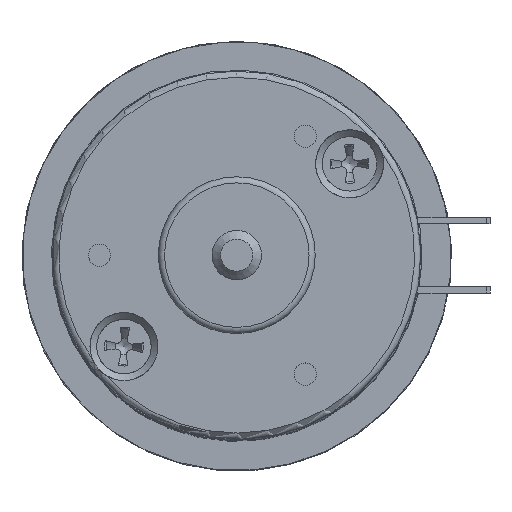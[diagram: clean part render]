
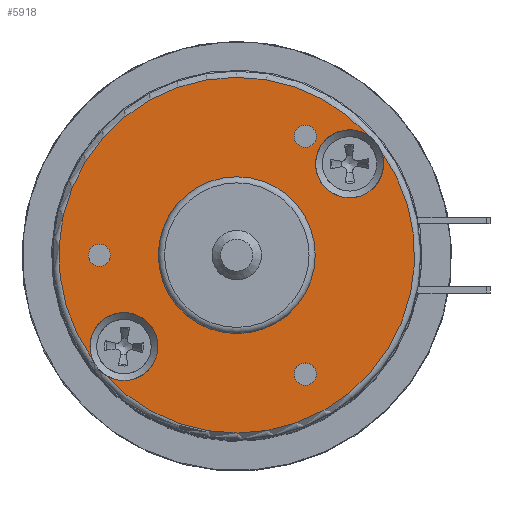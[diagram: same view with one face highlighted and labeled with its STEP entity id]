
A CAD part, top view. The second image highlights one B-rep face of the part: STEP entity #5918.
In plain terms, the highlighted planar face has unit normal (0, 0, 1).
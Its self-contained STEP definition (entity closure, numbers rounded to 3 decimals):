
#5237=CARTESIAN_POINT('',(0.,-6.35,73.6));
#5238=VERTEX_POINT('',#5237);
#5239=CARTESIAN_POINT('',(0.,0.,73.6));
#5240=DIRECTION('',(0.0,0.0,-1.0));
#5241=DIRECTION('',(0.0,1.0,0.0));
#5242=AXIS2_PLACEMENT_3D('',#5239,#5240,#5241);
#5243=CIRCLE('',#5242,6.35);
#5244=EDGE_CURVE('',#5238,#5238,#5243,.T.);
#5793=CARTESIAN_POINT('',(10.661,9.68,73.6));
#5794=VERTEX_POINT('',#5793);
#5795=CARTESIAN_POINT('',(11.685,8.416,73.6));
#5796=VERTEX_POINT('',#5795);
#5816=CARTESIAN_POINT('',(-10.661,-9.68,73.6));
#5817=VERTEX_POINT('',#5816);
#5818=CARTESIAN_POINT('',(0.,0.,73.6));
#5819=DIRECTION('',(0.0,0.0,-1.0));
#5820=DIRECTION('',(0.0,-1.0,0.0));
#5821=AXIS2_PLACEMENT_3D('',#5818,#5819,#5820);
#5822=CIRCLE('',#5821,14.4);
#5823=EDGE_CURVE('',#5796,#5817,#5822,.T.);
#5825=CARTESIAN_POINT('',(-11.685,-8.416,73.6));
#5826=VERTEX_POINT('',#5825);
#5846=CARTESIAN_POINT('',(0.,0.,73.6));
#5847=DIRECTION('',(0.0,0.0,-1.0));
#5848=DIRECTION('',(0.0,-1.0,0.0));
#5849=AXIS2_PLACEMENT_3D('',#5846,#5847,#5848);
#5850=CIRCLE('',#5849,14.4);
#5851=EDGE_CURVE('',#5826,#5794,#5850,.T.);
#5859=CARTESIAN_POINT('',(0.,0.,73.6));
#5860=DIRECTION('',(0.0,0.0,-1.0));
#5861=DIRECTION('',(0.0,1.0,0.0));
#5862=AXIS2_PLACEMENT_3D('',#5859,#5860,#5861);
#5863=PLANE('',#5862);
#5864=CARTESIAN_POINT('',(9.131,7.395,73.6));
#5865=DIRECTION('',(0.0,0.0,-1.0));
#5866=DIRECTION('',(0.0,-1.0,0.0));
#5867=AXIS2_PLACEMENT_3D('',#5864,#5865,#5866);
#5868=CIRCLE('',#5867,2.75);
#5869=EDGE_CURVE('',#5796,#5794,#5868,.T.);
#5870=ORIENTED_EDGE('',*,*,#5869,.T.);
#5871=ORIENTED_EDGE('',*,*,#5851,.F.);
#5872=CARTESIAN_POINT('',(-9.131,-7.395,73.6));
#5873=DIRECTION('',(0.0,0.0,-1.0));
#5874=DIRECTION('',(0.0,-1.0,0.0));
#5875=AXIS2_PLACEMENT_3D('',#5872,#5873,#5874);
#5876=CIRCLE('',#5875,2.75);
#5877=EDGE_CURVE('',#5826,#5817,#5876,.T.);
#5878=ORIENTED_EDGE('',*,*,#5877,.T.);
#5879=ORIENTED_EDGE('',*,*,#5823,.F.);
#5880=EDGE_LOOP('',(#5870,#5871,#5878,#5879));
#5881=FACE_OUTER_BOUND('',#5880,.T.);
#5882=CARTESIAN_POINT('',(-11.113,-0.9,73.6));
#5883=VERTEX_POINT('',#5882);
#5884=CARTESIAN_POINT('',(-11.113,0.,73.6));
#5885=DIRECTION('',(0.0,0.0,-1.0));
#5886=DIRECTION('',(0.0,-1.0,0.0));
#5887=AXIS2_PLACEMENT_3D('',#5884,#5885,#5886);
#5888=CIRCLE('',#5887,0.9);
#5889=EDGE_CURVE('',#5883,#5883,#5888,.T.);
#5890=ORIENTED_EDGE('',*,*,#5889,.T.);
#5891=EDGE_LOOP('',(#5890));
#5892=FACE_BOUND('',#5891,.T.);
#5893=CARTESIAN_POINT('',(5.556,8.724,73.6));
#5894=VERTEX_POINT('',#5893);
#5895=CARTESIAN_POINT('',(5.556,9.624,73.6));
#5896=DIRECTION('',(0.0,0.0,-1.0));
#5897=DIRECTION('',(0.0,-1.0,0.0));
#5898=AXIS2_PLACEMENT_3D('',#5895,#5896,#5897);
#5899=CIRCLE('',#5898,0.9);
#5900=EDGE_CURVE('',#5894,#5894,#5899,.T.);
#5901=ORIENTED_EDGE('',*,*,#5900,.T.);
#5902=EDGE_LOOP('',(#5901));
#5903=FACE_BOUND('',#5902,.T.);
#5904=CARTESIAN_POINT('',(5.556,-10.524,73.6));
#5905=VERTEX_POINT('',#5904);
#5906=CARTESIAN_POINT('',(5.556,-9.624,73.6));
#5907=DIRECTION('',(0.0,0.0,-1.0));
#5908=DIRECTION('',(0.0,-1.0,0.0));
#5909=AXIS2_PLACEMENT_3D('',#5906,#5907,#5908);
#5910=CIRCLE('',#5909,0.9);
#5911=EDGE_CURVE('',#5905,#5905,#5910,.T.);
#5912=ORIENTED_EDGE('',*,*,#5911,.T.);
#5913=EDGE_LOOP('',(#5912));
#5914=FACE_BOUND('',#5913,.T.);
#5915=ORIENTED_EDGE('',*,*,#5244,.T.);
#5916=EDGE_LOOP('',(#5915));
#5917=FACE_BOUND('',#5916,.T.);
#5918=ADVANCED_FACE('',(#5881,#5892,#5903,#5914,#5917),#5863,.F.);
